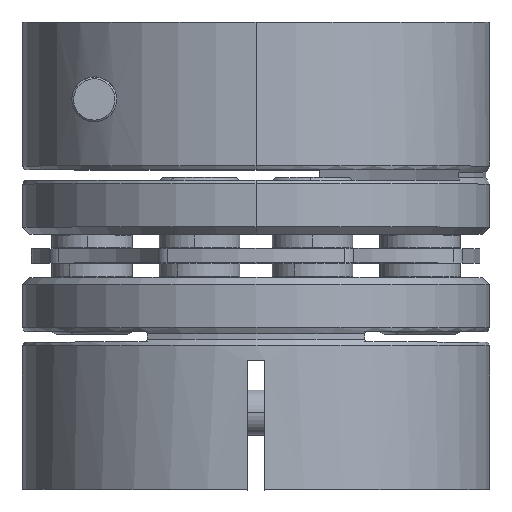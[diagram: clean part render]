
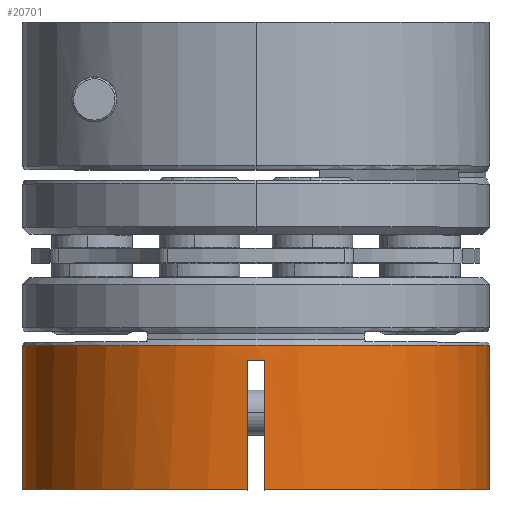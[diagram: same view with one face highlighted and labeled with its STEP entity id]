
A CAD part, top view. The second image highlights one B-rep face of the part: STEP entity #20701.
In plain terms, the highlighted cylindrical face has radius 13 mm (diameter 26 mm), a partial arc.
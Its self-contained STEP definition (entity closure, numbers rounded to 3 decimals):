
#276 = DIRECTION ( 'NONE',  ( 0., 1., 0. ) ) ;
#564 = CARTESIAN_POINT ( 'NONE',  ( -11.245, -26.289, 0. ) ) ;
#2163 = DIRECTION ( 'NONE',  ( 1., 0., 0. ) ) ;
#2831 = DIRECTION ( 'NONE',  ( 1., 0., 0. ) ) ;
#2853 = CARTESIAN_POINT ( 'NONE',  ( 1.255, -14.489, 12.99 ) ) ;
#2908 = CYLINDRICAL_SURFACE ( 'NONE', #5008, 13. ) ;
#2920 = EDGE_CURVE ( 'NONE', #6737, #16661, #6350, .T. ) ;
#2967 = ORIENTED_EDGE ( 'NONE', *, *, #14308, .F. ) ;
#3670 = VECTOR ( 'NONE', #10831, 1000. ) ;
#3832 = EDGE_LOOP ( 'NONE', ( #17342, #4730, #17327, #21760, #4528, #2967, #16048, #13550 ) ) ;
#3938 = DIRECTION ( 'NONE',  ( -1., 0., 0. ) ) ;
#3984 = VECTOR ( 'NONE', #22320, 1000. ) ;
#4016 = LINE ( 'NONE', #2853, #12394 ) ;
#4528 = ORIENTED_EDGE ( 'NONE', *, *, #22268, .F. ) ;
#4730 = ORIENTED_EDGE ( 'NONE', *, *, #16327, .T. ) ;
#5008 = AXIS2_PLACEMENT_3D ( 'NONE', #16842, #7438, #3938 ) ;
#5755 = VECTOR ( 'NONE', #19282, 1000. ) ;
#6260 = FACE_OUTER_BOUND ( 'NONE', #3832, .T. ) ;
#6350 = B_SPLINE_CURVE_WITH_KNOTS ( 'NONE', 3,
 ( #19291, #19216, #13807, #6844 ),
 .UNSPECIFIED., .F., .F.,
 ( 4, 4 ),
 ( 0., 0.001 ),
 .UNSPECIFIED. ) ;
#6500 = DIRECTION ( 'NONE',  ( 0., -1., 0. ) ) ;
#6737 = VERTEX_POINT ( 'NONE', #11007 ) ;
#6844 = CARTESIAN_POINT ( 'NONE',  ( 2.255, -19.154, 12.99 ) ) ;
#7438 = DIRECTION ( 'NONE',  ( 0., 1., 0. ) ) ;
#7483 = CARTESIAN_POINT ( 'NONE',  ( 1.755, -18.289, 0. ) ) ;
#7649 = VERTEX_POINT ( 'NONE', #564 ) ;
#8115 = VERTEX_POINT ( 'NONE', #9534 ) ;
#8273 = EDGE_CURVE ( 'NONE', #16661, #8509, #18733, .T. ) ;
#8509 = VERTEX_POINT ( 'NONE', #17654 ) ;
#9094 = CARTESIAN_POINT ( 'NONE',  ( 1.755, -26.289, 0. ) ) ;
#9508 = LINE ( 'NONE', #14332, #3670 ) ;
#9534 = CARTESIAN_POINT ( 'NONE',  ( 1.255, -26.289, 12.99 ) ) ;
#9706 = DIRECTION ( 'NONE',  ( 0., -1., 0. ) ) ;
#10666 = CARTESIAN_POINT ( 'NONE',  ( -11.245, -56.94, 0. ) ) ;
#10831 = DIRECTION ( 'NONE',  ( 0., 1., 0. ) ) ;
#10913 = DIRECTION ( 'NONE',  ( 0., -1., 0. ) ) ;
#11007 = CARTESIAN_POINT ( 'NONE',  ( 1.255, -19.154, 12.99 ) ) ;
#11540 = EDGE_CURVE ( 'NONE', #7649, #16420, #15803, .T. ) ;
#11541 = VERTEX_POINT ( 'NONE', #19584 ) ;
#11665 = VERTEX_POINT ( 'NONE', #19981 ) ;
#11702 = EDGE_CURVE ( 'NONE', #11541, #8509, #14135, .T. ) ;
#11968 = CARTESIAN_POINT ( 'NONE',  ( 2.255, -14.489, 12.99 ) ) ;
#12394 = VECTOR ( 'NONE', #9706, 1000. ) ;
#13550 = ORIENTED_EDGE ( 'NONE', *, *, #8273, .T. ) ;
#13674 = EDGE_CURVE ( 'NONE', #16420, #11665, #22339, .T. ) ;
#13807 = CARTESIAN_POINT ( 'NONE',  ( 1.922, -19.16, 13.003 ) ) ;
#14135 = CIRCLE ( 'NONE', #22969, 13. ) ;
#14308 = EDGE_CURVE ( 'NONE', #6737, #8115, #4016, .T. ) ;
#14332 = CARTESIAN_POINT ( 'NONE',  ( 14.755, -56.94, 0. ) ) ;
#15638 = CARTESIAN_POINT ( 'NONE',  ( 2.255, -19.154, 12.99 ) ) ;
#15803 = LINE ( 'NONE', #10666, #5755 ) ;
#16048 = ORIENTED_EDGE ( 'NONE', *, *, #2920, .T. ) ;
#16327 = EDGE_CURVE ( 'NONE', #11541, #11665, #9508, .T. ) ;
#16420 = VERTEX_POINT ( 'NONE', #18345 ) ;
#16661 = VERTEX_POINT ( 'NONE', #15638 ) ;
#16842 = CARTESIAN_POINT ( 'NONE',  ( 1.755, -56.94, 0. ) ) ;
#16949 = CIRCLE ( 'NONE', #22288, 13. ) ;
#17278 = CARTESIAN_POINT ( 'NONE',  ( 1.755, -26.289, 0. ) ) ;
#17327 = ORIENTED_EDGE ( 'NONE', *, *, #13674, .F. ) ;
#17342 = ORIENTED_EDGE ( 'NONE', *, *, #11702, .F. ) ;
#17654 = CARTESIAN_POINT ( 'NONE',  ( 2.255, -26.289, 12.99 ) ) ;
#18345 = CARTESIAN_POINT ( 'NONE',  ( -11.245, -18.289, 0. ) ) ;
#18733 = LINE ( 'NONE', #11968, #3984 ) ;
#19216 = CARTESIAN_POINT ( 'NONE',  ( 1.589, -19.16, 13.003 ) ) ;
#19282 = DIRECTION ( 'NONE',  ( 0., 1., 0. ) ) ;
#19291 = CARTESIAN_POINT ( 'NONE',  ( 1.255, -19.154, 12.99 ) ) ;
#19584 = CARTESIAN_POINT ( 'NONE',  ( 14.755, -26.289, 0. ) ) ;
#19981 = CARTESIAN_POINT ( 'NONE',  ( 14.755, -18.289, 0. ) ) ;
#20701 = ADVANCED_FACE ( 'NONE', ( #6260 ), #2908, .T. ) ;
#21381 = AXIS2_PLACEMENT_3D ( 'NONE', #7483, #276, #21750 ) ;
#21750 = DIRECTION ( 'NONE',  ( -1., 0., 0. ) ) ;
#21760 = ORIENTED_EDGE ( 'NONE', *, *, #11540, .F. ) ;
#22268 = EDGE_CURVE ( 'NONE', #8115, #7649, #16949, .T. ) ;
#22288 = AXIS2_PLACEMENT_3D ( 'NONE', #17278, #6500, #2831 ) ;
#22320 = DIRECTION ( 'NONE',  ( 0., -1., 0. ) ) ;
#22339 = CIRCLE ( 'NONE', #21381, 13. ) ;
#22969 = AXIS2_PLACEMENT_3D ( 'NONE', #9094, #10913, #2163 ) ;
